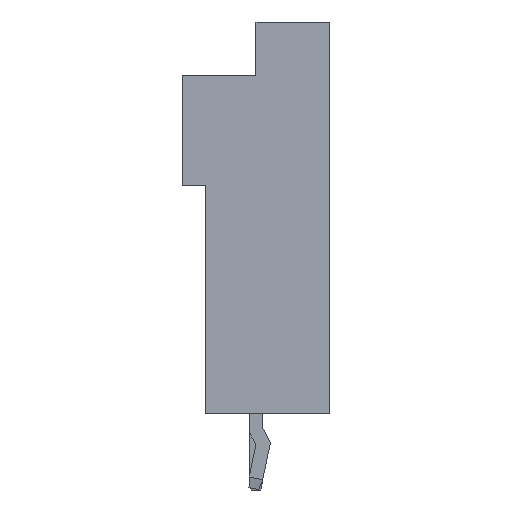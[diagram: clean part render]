
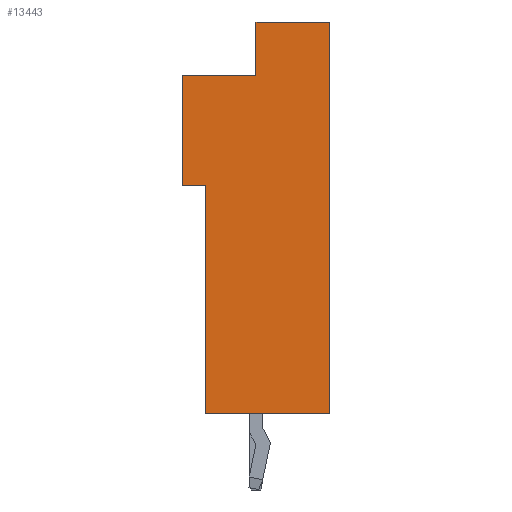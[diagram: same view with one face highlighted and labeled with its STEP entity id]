
A CAD part, left-side view. The second image highlights one B-rep face of the part: STEP entity #13443.
In plain terms, the highlighted planar face has unit normal (-1, 0, 0).
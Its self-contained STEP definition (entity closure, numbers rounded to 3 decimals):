
#229 = DIRECTION ( 'NONE',  ( 1., 0., 0. ) ) ;
#753 = CARTESIAN_POINT ( 'NONE',  ( -7.593, 2.321, -8.5 ) ) ;
#933 = VECTOR ( 'NONE', #9040, 1000. ) ;
#1498 = CARTESIAN_POINT ( 'NONE',  ( -7.593, 3.321, 1.4 ) ) ;
#2317 = CARTESIAN_POINT ( 'NONE',  ( -7.593, -3.079, -8.5 ) ) ;
#2985 = DIRECTION ( 'NONE',  ( 0., 1., 0. ) ) ;
#3096 = LINE ( 'NONE', #1498, #14476 ) ;
#3221 = VERTEX_POINT ( 'NONE', #4219 ) ;
#3400 = DIRECTION ( 'NONE',  ( 0., -1., 0. ) ) ;
#4166 = CARTESIAN_POINT ( 'NONE',  ( -7.593, 3.321, 8.5 ) ) ;
#4219 = CARTESIAN_POINT ( 'NONE',  ( -7.593, 3.321, 1.4 ) ) ;
#4232 = EDGE_CURVE ( 'NONE', #18399, #3221, #5468, .T. ) ;
#4396 = EDGE_LOOP ( 'NONE', ( #13393, #19652, #15666, #11260, #11620, #9869, #4731, #5899 ) ) ;
#4550 = LINE ( 'NONE', #15795, #15661 ) ;
#4731 = ORIENTED_EDGE ( 'NONE', *, *, #17992, .F. ) ;
#4861 = CARTESIAN_POINT ( 'NONE',  ( -7.593, -3.079, 8.5 ) ) ;
#5043 = VERTEX_POINT ( 'NONE', #8215 ) ;
#5468 = LINE ( 'NONE', #11922, #13451 ) ;
#5899 = ORIENTED_EDGE ( 'NONE', *, *, #10550, .F. ) ;
#6196 = CARTESIAN_POINT ( 'NONE',  ( -7.593, 0.121, 8.5 ) ) ;
#6967 = VECTOR ( 'NONE', #17302, 1000. ) ;
#7529 = VERTEX_POINT ( 'NONE', #10132 ) ;
#7987 = DIRECTION ( 'NONE',  ( 0., 0., -1. ) ) ;
#8215 = CARTESIAN_POINT ( 'NONE',  ( -7.593, 2.321, 1.4 ) ) ;
#8299 = DIRECTION ( 'NONE',  ( 0., 0., -1. ) ) ;
#8670 = VECTOR ( 'NONE', #14866, 1000. ) ;
#9040 = DIRECTION ( 'NONE',  ( 0., -1., 0. ) ) ;
#9676 = VECTOR ( 'NONE', #8299, 1000. ) ;
#9844 = PLANE ( 'NONE',  #20000 ) ;
#9869 = ORIENTED_EDGE ( 'NONE', *, *, #17892, .T. ) ;
#9998 = EDGE_CURVE ( 'NONE', #3221, #5043, #3096, .T. ) ;
#10132 = CARTESIAN_POINT ( 'NONE',  ( -7.593, 0.121, 8.5 ) ) ;
#10550 = EDGE_CURVE ( 'NONE', #7529, #17484, #12226, .T. ) ;
#11052 = CARTESIAN_POINT ( 'NONE',  ( -7.593, 0.121, 6.2 ) ) ;
#11260 = ORIENTED_EDGE ( 'NONE', *, *, #9998, .T. ) ;
#11620 = ORIENTED_EDGE ( 'NONE', *, *, #18726, .T. ) ;
#11922 = CARTESIAN_POINT ( 'NONE',  ( -7.593, 3.321, 8.5 ) ) ;
#12226 = LINE ( 'NONE', #4166, #933 ) ;
#12324 = VERTEX_POINT ( 'NONE', #2317 ) ;
#12660 = LINE ( 'NONE', #6196, #16549 ) ;
#13393 = ORIENTED_EDGE ( 'NONE', *, *, #20621, .T. ) ;
#13443 = ADVANCED_FACE ( 'NONE', ( #19488 ), #9844, .F. ) ;
#13451 = VECTOR ( 'NONE', #18494, 1000. ) ;
#13527 = VERTEX_POINT ( 'NONE', #753 ) ;
#14437 = CARTESIAN_POINT ( 'NONE',  ( -7.593, 3.321, -8.5 ) ) ;
#14476 = VECTOR ( 'NONE', #3400, 1000. ) ;
#14648 = EDGE_CURVE ( 'NONE', #18751, #18399, #4550, .T. ) ;
#14866 = DIRECTION ( 'NONE',  ( 0., 0., -1. ) ) ;
#15661 = VECTOR ( 'NONE', #2985, 1000. ) ;
#15666 = ORIENTED_EDGE ( 'NONE', *, *, #4232, .T. ) ;
#15795 = CARTESIAN_POINT ( 'NONE',  ( -7.593, 3.321, 6.2 ) ) ;
#16430 = DIRECTION ( 'NONE',  ( 0., 1., 0. ) ) ;
#16518 = CARTESIAN_POINT ( 'NONE',  ( -7.593, -3.079, 8.5 ) ) ;
#16549 = VECTOR ( 'NONE', #7987, 1000. ) ;
#17302 = DIRECTION ( 'NONE',  ( 0., -1., 0. ) ) ;
#17484 = VERTEX_POINT ( 'NONE', #16518 ) ;
#17892 = EDGE_CURVE ( 'NONE', #13527, #12324, #20581, .T. ) ;
#17992 = EDGE_CURVE ( 'NONE', #17484, #12324, #19397, .T. ) ;
#18399 = VERTEX_POINT ( 'NONE', #18936 ) ;
#18494 = DIRECTION ( 'NONE',  ( 0., 0., -1. ) ) ;
#18726 = EDGE_CURVE ( 'NONE', #5043, #13527, #20926, .T. ) ;
#18751 = VERTEX_POINT ( 'NONE', #11052 ) ;
#18936 = CARTESIAN_POINT ( 'NONE',  ( -7.593, 3.321, 6.2 ) ) ;
#19324 = CARTESIAN_POINT ( 'NONE',  ( -7.593, 2.321, -8.5 ) ) ;
#19397 = LINE ( 'NONE', #4861, #8670 ) ;
#19488 = FACE_OUTER_BOUND ( 'NONE', #4396, .T. ) ;
#19652 = ORIENTED_EDGE ( 'NONE', *, *, #14648, .T. ) ;
#19708 = CARTESIAN_POINT ( 'NONE',  ( -7.593, 3.321, 8.5 ) ) ;
#20000 = AXIS2_PLACEMENT_3D ( 'NONE', #19708, #229, #16430 ) ;
#20581 = LINE ( 'NONE', #14437, #6967 ) ;
#20621 = EDGE_CURVE ( 'NONE', #7529, #18751, #12660, .T. ) ;
#20926 = LINE ( 'NONE', #19324, #9676 ) ;
